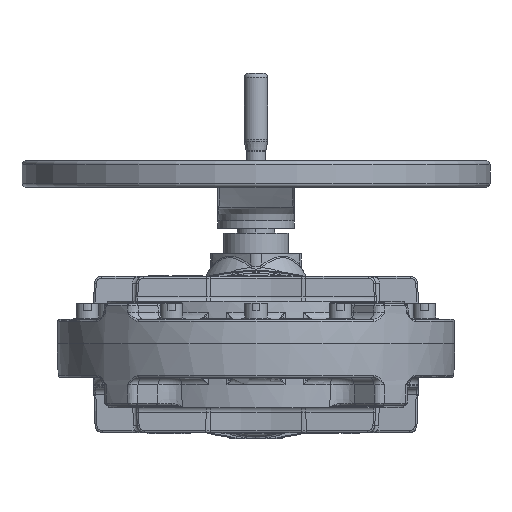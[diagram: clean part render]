
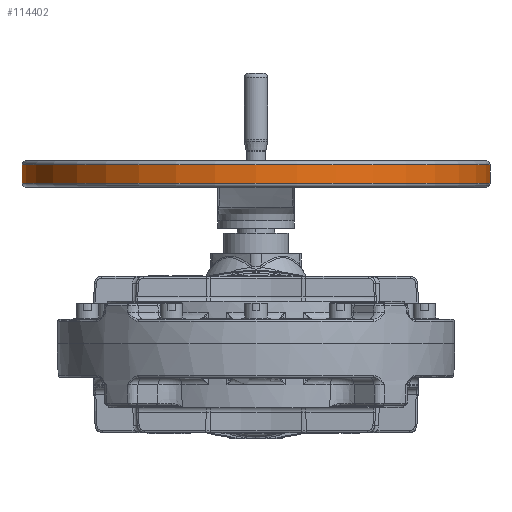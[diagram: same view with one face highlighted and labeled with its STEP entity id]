
A CAD part, front view. The second image highlights one B-rep face of the part: STEP entity #114402.
In plain terms, the highlighted cylindrical face has radius 250 mm (diameter 500 mm), a partial arc.
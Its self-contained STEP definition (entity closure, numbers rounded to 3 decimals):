
#8517 = ORIENTED_EDGE ( 'NONE', *, *, #34475, .F. ) ;
#12959 = CARTESIAN_POINT ( 'NONE',  ( 250., 857., 191.26 ) ) ;
#15256 = DIRECTION ( 'NONE',  ( 0., 0., -1. ) ) ;
#18614 = DIRECTION ( 'NONE',  ( 0., 0., -1. ) ) ;
#21251 = LINE ( 'NONE', #144653, #139782 ) ;
#27282 = CARTESIAN_POINT ( 'NONE',  ( 0., 857., 93.315 ) ) ;
#28148 = ORIENTED_EDGE ( 'NONE', *, *, #52755, .T. ) ;
#28236 = EDGE_LOOP ( 'NONE', ( #8517, #28148, #119847, #57420 ) ) ;
#28712 = VERTEX_POINT ( 'NONE', #107237 ) ;
#34475 = EDGE_CURVE ( 'NONE', #43244, #134765, #104723, .T. ) ;
#35956 = EDGE_CURVE ( 'NONE', #134765, #28712, #71646, .T. ) ;
#36353 = DIRECTION ( 'NONE',  ( 0., 0., -1. ) ) ;
#43244 = VERTEX_POINT ( 'NONE', #12959 ) ;
#45279 = CARTESIAN_POINT ( 'NONE',  ( -250., 857., 191.26 ) ) ;
#52755 = EDGE_CURVE ( 'NONE', #43244, #97597, #114125, .T. ) ;
#57420 = ORIENTED_EDGE ( 'NONE', *, *, #35956, .F. ) ;
#62008 = AXIS2_PLACEMENT_3D ( 'NONE', #84043, #15256, #95622 ) ;
#64414 = DIRECTION ( 'NONE',  ( 0., 0., -1. ) ) ;
#64641 = CYLINDRICAL_SURFACE ( 'NONE', #68475, 250. ) ;
#67028 = VECTOR ( 'NONE', #106575, 1000. ) ;
#68475 = AXIS2_PLACEMENT_3D ( 'NONE', #27282, #36353, #107627 ) ;
#71646 = CIRCLE ( 'NONE', #62008, 250. ) ;
#84043 = CARTESIAN_POINT ( 'NONE',  ( 0., 857., 171.26 ) ) ;
#95622 = DIRECTION ( 'NONE',  ( -1., 0., 0. ) ) ;
#97597 = VERTEX_POINT ( 'NONE', #45279 ) ;
#104723 = LINE ( 'NONE', #118128, #67028 ) ;
#105384 = AXIS2_PLACEMENT_3D ( 'NONE', #133155, #64414, #144793 ) ;
#105924 = FACE_OUTER_BOUND ( 'NONE', #28236, .T. ) ;
#106575 = DIRECTION ( 'NONE',  ( 0., 0., -1. ) ) ;
#107237 = CARTESIAN_POINT ( 'NONE',  ( -250., 857., 171.26 ) ) ;
#107627 = DIRECTION ( 'NONE',  ( -1., 0., 0. ) ) ;
#114125 = CIRCLE ( 'NONE', #105384, 250. ) ;
#114402 = ADVANCED_FACE ( 'NONE', ( #105924 ), #64641, .T. ) ;
#116672 = EDGE_CURVE ( 'NONE', #97597, #28712, #21251, .T. ) ;
#118128 = CARTESIAN_POINT ( 'NONE',  ( 250., 857., 93.315 ) ) ;
#119847 = ORIENTED_EDGE ( 'NONE', *, *, #116672, .T. ) ;
#133155 = CARTESIAN_POINT ( 'NONE',  ( 0., 857., 191.26 ) ) ;
#134765 = VERTEX_POINT ( 'NONE', #138701 ) ;
#138701 = CARTESIAN_POINT ( 'NONE',  ( 250., 857., 171.26 ) ) ;
#139782 = VECTOR ( 'NONE', #18614, 1000. ) ;
#144653 = CARTESIAN_POINT ( 'NONE',  ( -250., 857., 93.315 ) ) ;
#144793 = DIRECTION ( 'NONE',  ( -1., 0., 0. ) ) ;
